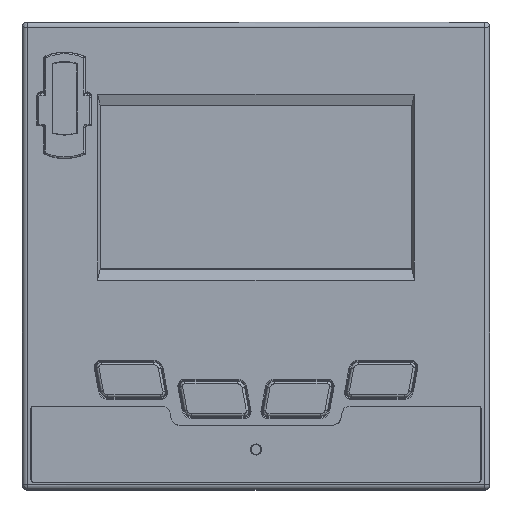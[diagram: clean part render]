
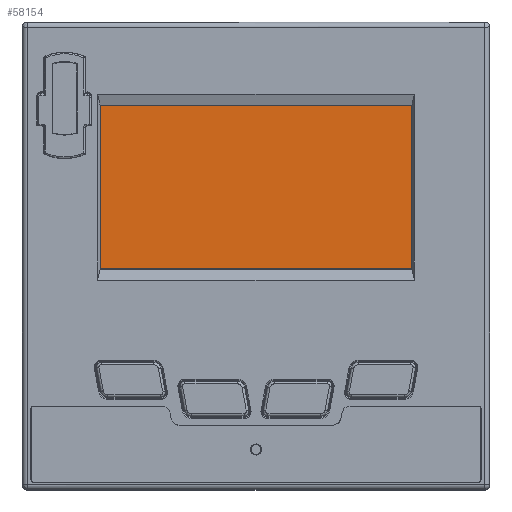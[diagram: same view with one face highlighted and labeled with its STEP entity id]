
A CAD part, top view. The second image highlights one B-rep face of the part: STEP entity #58154.
In plain terms, the highlighted planar face has unit normal (0, 0, 1).
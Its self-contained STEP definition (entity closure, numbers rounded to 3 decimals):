
#2958=PLANE('',#61838);
#5754=FACE_OUTER_BOUND('',#9124,.T.);
#9124=EDGE_LOOP('',(#46612,#46613,#46614,#46615));
#14159=LINE('',#96559,#20128);
#14160=LINE('',#96561,#20129);
#14161=LINE('',#96563,#20130);
#14162=LINE('',#96564,#20131);
#20128=VECTOR('',#70574,10.);
#20129=VECTOR('',#70575,10.);
#20130=VECTOR('',#70576,10.);
#20131=VECTOR('',#70577,10.);
#27339=VERTEX_POINT('',#96557);
#27340=VERTEX_POINT('',#96558);
#27341=VERTEX_POINT('',#96560);
#27342=VERTEX_POINT('',#96562);
#34284=EDGE_CURVE('',#27339,#27340,#14159,.T.);
#34285=EDGE_CURVE('',#27341,#27339,#14160,.T.);
#34286=EDGE_CURVE('',#27342,#27341,#14161,.T.);
#34287=EDGE_CURVE('',#27340,#27342,#14162,.T.);
#46612=ORIENTED_EDGE('',*,*,#34284,.F.);
#46613=ORIENTED_EDGE('',*,*,#34285,.F.);
#46614=ORIENTED_EDGE('',*,*,#34286,.F.);
#46615=ORIENTED_EDGE('',*,*,#34287,.F.);
#58154=ADVANCED_FACE('',(#5754),#2958,.T.);
#61838=AXIS2_PLACEMENT_3D('',#96556,#70572,#70573);
#70572=DIRECTION('center_axis',(0.,0.,1.));
#70573=DIRECTION('ref_axis',(1.,0.,0.));
#70574=DIRECTION('',(0.,1.,0.));
#70575=DIRECTION('',(-1.,0.,0.));
#70576=DIRECTION('',(0.,-1.,0.));
#70577=DIRECTION('',(1.,0.,0.));
#96556=CARTESIAN_POINT('Origin',(0.,14.1,0.5));
#96557=CARTESIAN_POINT('',(-31.898,-2.648,0.5));
#96558=CARTESIAN_POINT('',(-31.898,30.848,0.5));
#96559=CARTESIAN_POINT('',(-31.898,-2.65,0.5));
#96560=CARTESIAN_POINT('',(31.898,-2.648,0.5));
#96561=CARTESIAN_POINT('',(31.9,-2.648,0.5));
#96562=CARTESIAN_POINT('',(31.898,30.848,0.5));
#96563=CARTESIAN_POINT('',(31.898,30.85,0.5));
#96564=CARTESIAN_POINT('',(-31.9,30.848,0.5));
